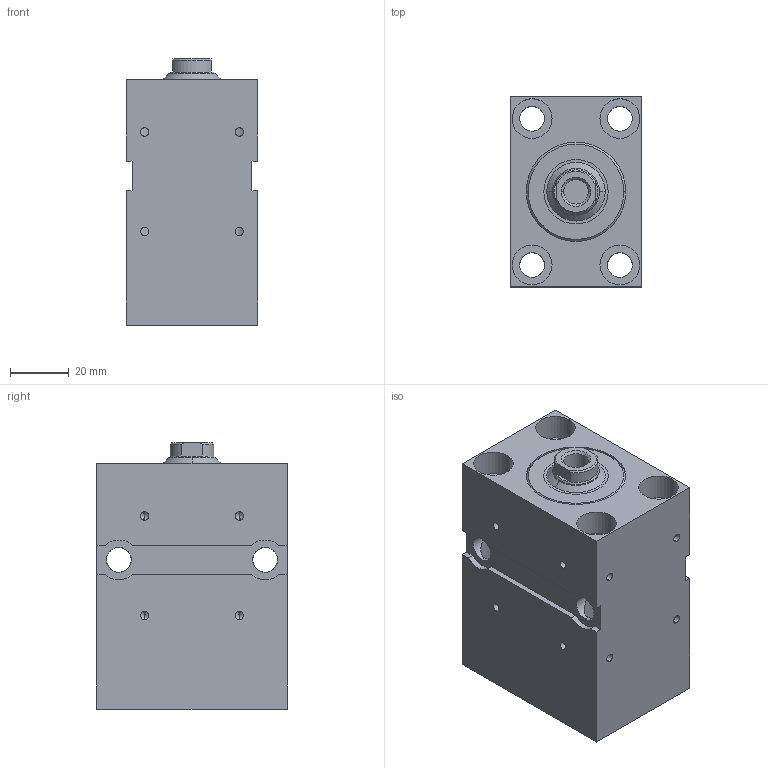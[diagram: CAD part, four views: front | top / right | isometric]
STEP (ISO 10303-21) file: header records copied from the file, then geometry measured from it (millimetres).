
FILE_DESCRIPTION (( 'STEP AP203' ), '1' );
FILE_NAME ('BZ_500.25_16.78.201.040 PP.KBC33__DH_0_.STEP', '2022-05-10T14:27:20', ( '' ), ( '' ), 'SwSTEP 2.0', 'SolidWorks 2020', '' );
FILE_SCHEMA (( 'CONFIG_CONTROL_DESIGN' ));
Length unit declared in the file: millimetre
Products named in the file (6): BZ_500.25_16.78.201.040 PP.KBC33__DH_0_; _Gehaeuse f. BZ500.25_16.Fehler in IDBF.201.40Fehler in IDNT00(1333frei278000))7^BZ_500.25_16.78.201.040 PP.KBC33__DH_0_(2)_BZ_500.25_16.78.201.040 PP.KBC33__DH_0_; _Kolbenstange komplett f. BZ_RZ_FZ.25_16.xx.201.40(0_11 1 10 1.5 0 0 7 15 0 0 0)0^BZ_500.25_16.78.201.040 PP.KBC33__DH_0_(2)_BZ_500.25_16.78.201.040 PP.KBC33__DH_0_; _Dichtungssatz f. BZ_RZ_FZ.25_16.xx.201.40 Artikelnr._ 013322(0)^BZ_500.25_16.78.201.040 PP.KBC33__DH_0_(2)_BZ_500.25_16.78.201.040 PP.KBC33__DH_0_; BZ_500.25_16.78.201.040 PP.KBC33__DH_0_(2)^BZ_500.25_16.78.201.040 PP.KBC33__DH_0_; _Verschraubung komplett mit Dichtung f. BZ_RZ_FZ.25_16.201, Art.-Nr._ 092861(201)^BZ_500.25_16.78.201.040 PP.KBC33__DH_0_(2)_BZ_500.25_16.78.201.040 PP.KBC33__DH_0_
Assembly tree (5 placements, depth 3):
  BZ_500.25_16.78.201.040 PP.KBC33__DH_0_
    BZ_500.25_16.78.201.040 PP.KBC33__DH_0_(2)^BZ_500.25_16.78.201.040 PP.KBC33__DH_0_
      _Gehaeuse f. BZ500.25_16.Fehler in IDBF.201.40Fehler in IDNT00(1333frei278000))7^BZ_500.25_16.78.201.040 PP.KBC33__DH_0_(2)_BZ_500.25_16.78.201.040 PP.KBC33__DH_0_
      _Verschraubung komplett mit Dichtung f. BZ_RZ_FZ.25_16.201, Art.-Nr._ 092861(201)^BZ_500.25_16.78.201.040 PP.KBC33__DH_0_(2)_BZ_500.25_16.78.201.040 PP.KBC33__DH_0_
      _Dichtungssatz f. BZ_RZ_FZ.25_16.xx.201.40 Artikelnr._ 013322(0)^BZ_500.25_16.78.201.040 PP.KBC33__DH_0_(2)_BZ_500.25_16.78.201.040 PP.KBC33__DH_0_
      _Kolbenstange komplett f. BZ_RZ_FZ.25_16.xx.201.40(0_11 1 10 1.5 0 0 7 15 0 0 0)0^BZ_500.25_16.78.201.040 PP.KBC33__DH_0_(2)_BZ_500.25_16.78.201.040 PP.KBC33__DH_0_
Bounding box: 45 x 65 x 91 mm (x, y, z)
Volume: 198612.6 mm3; surface area: 55455.6 mm2
Topology: 4 solids, 4 shells, 198 faces, 490 edges, 300 vertices
Faces by surface type: cylinder 117, plane 51, cone 30
Entity records: 6851 total; most frequent: CARTESIAN_POINT 1494, DIRECTION 1046, ORIENTED_EDGE 948, EDGE_CURVE 474, AXIS2_PLACEMENT_3D 415, VERTEX_POINT 300, EDGE_LOOP 250, LINE 216
